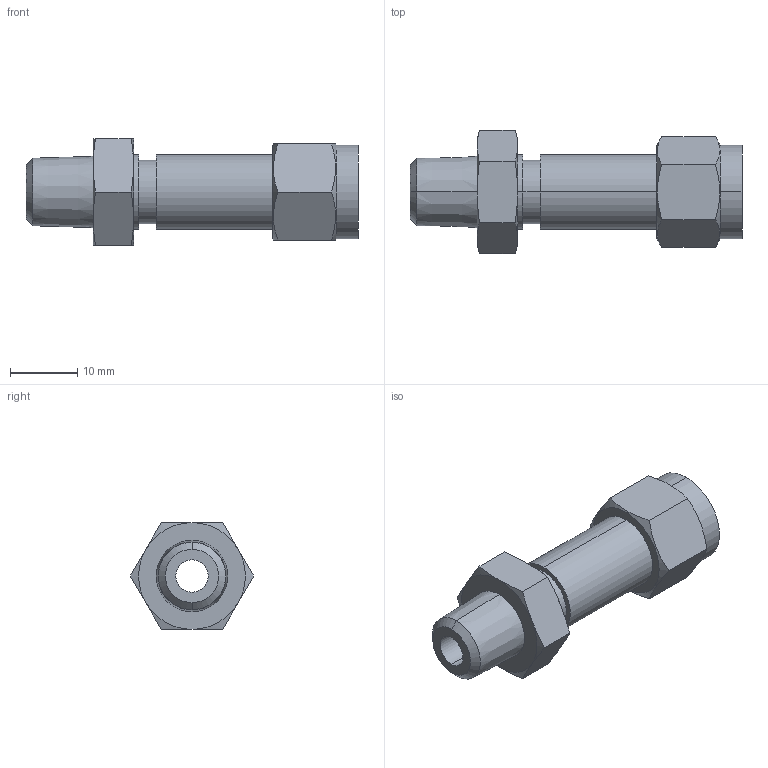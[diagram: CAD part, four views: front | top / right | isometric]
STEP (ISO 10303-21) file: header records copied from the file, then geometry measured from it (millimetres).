
FILE_DESCRIPTION (( 'STEP AP203' ), '1' );
FILE_NAME ('DSC04-02 SS.STEP', '2009-09-08T09:00:38', ( ' ' ), ( '' ), 'SwSTEP 2.0', 'SolidWorks 2008', '' );
FILE_SCHEMA (( 'CONFIG_CONTROL_DESIGN' ));
Length unit declared in the file: millimetre
Products named in the file (1): DSC04-02 SS
Bounding box: 49.4 x 18.34 x 15.88 mm (x, y, z)
Volume: 5113.1 mm3; surface area: 3341.3 mm2
Topology: 1 solids, 1 shells, 52 faces, 116 edges, 72 vertices
Faces by surface type: cone 20, plane 20, cylinder 12
Entity records: 1645 total; most frequent: CARTESIAN_POINT 449, ORIENTED_EDGE 232, DIRECTION 226, EDGE_CURVE 116, AXIS2_PLACEMENT_3D 97, VERTEX_POINT 72, EDGE_LOOP 60, ADVANCED_FACE 52
